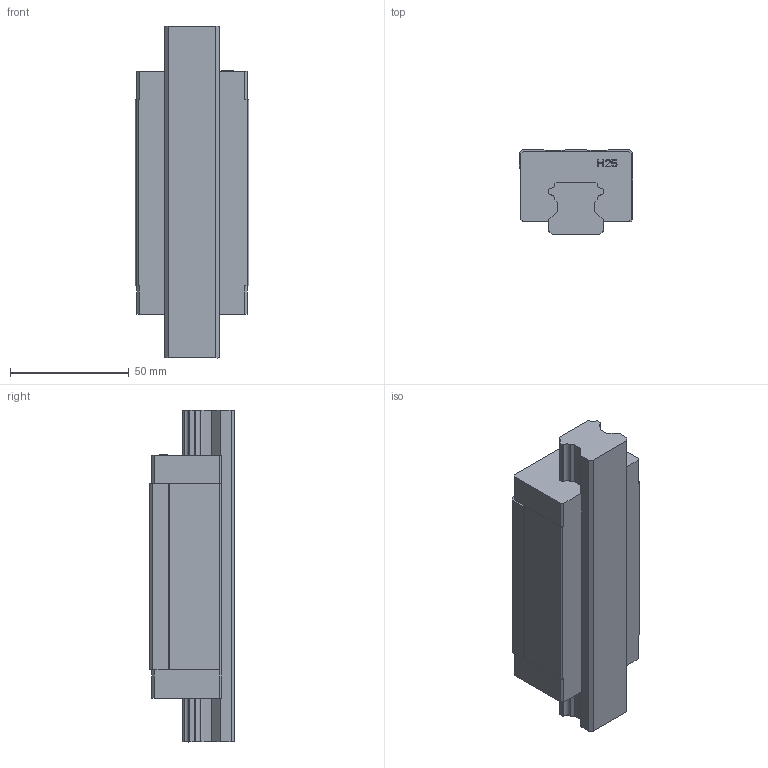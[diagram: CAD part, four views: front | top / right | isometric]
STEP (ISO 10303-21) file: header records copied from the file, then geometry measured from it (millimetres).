
FILE_DESCRIPTION(/* description */ (''),/* implementation_level */ '2;1');
FILE_NAME(/* name */ 'HGL25HA.stp',/* time_stamp */ '2021-04-14T20:23:53+08:00',/* author */ (''),/* organization */ (''),/* preprocessor_version */ 'ST-DEVELOPER v15',/* originating_system */ 'SIEMENS PLM Software NX 8.5',/* authorisation */ '');
FILE_SCHEMA (('CONFIG_CONTROL_DESIGN'));
Length unit declared in the file: millimetre
Products named in the file (1): _model2
Bounding box: 48 x 36 x 140 mm (x, y, z)
Volume: 174418 mm3; surface area: 36174.5 mm2
Topology: 2 solids, 2 shells, 175 faces, 492 edges, 328 vertices
Faces by surface type: plane 163, cylinder 12
Full cylindrical faces by diameter (mm): 6 x4
Entity records: 5612 total; most frequent: CARTESIAN_POINT 992, ORIENTED_EDGE 976, DIRECTION 864, EDGE_CURVE 488, LINE 464, VECTOR 464, VERTEX_POINT 328, AXIS2_PLACEMENT_3D 200
